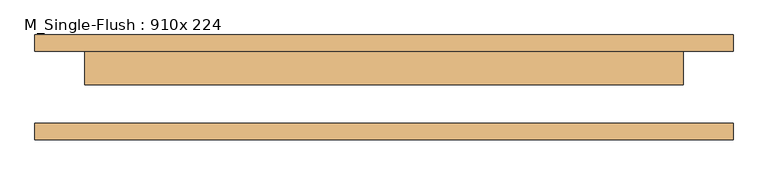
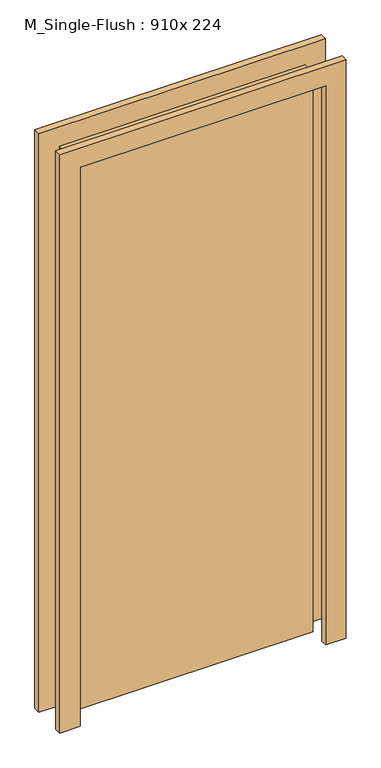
"""IFC4 building model written with IfcOpenShell, lengths in millimetres: door geometry, M_Single-Flush : 910x 224."""

from ifc_helpers import new_model, si_unit, frame, origin, origin_with_axes, place, context, project, spatial, polyline, outline, extrude, source, transform, mapped, element, save


def m_single_flush_910x_224_b1cae8a4(model_context):
    return source(origin(), model_context, "Body", "SweptSolid", [
        extrude(outline(polyline([(2276.0, -533.5), (0.0, -533.5), (0.0, -457.5), (2200.0, -457.5), (2200.0, 457.5), (0.0, 457.5), (0.0, 533.5), (2276.0, 533.5), (2276.0, -533.5)])), frame((0.0, 55.0, 0.0), z_axis=(0.0, 1.0, 0.0), x_axis=(0.0, 0.0, 1.0)), (0.0, 0.0, 1.0), 25.0),
        extrude(outline(polyline([(2276.0, 533.5), (2276.0, -533.5), (0.0, -533.5), (0.0, -457.5), (2200.0, -457.5), (2200.0, 457.5), (0.0, 457.5), (0.0, 533.5), (2276.0, 533.5)])), frame((0.0, -80.0, 0.0), z_axis=(0.0, 1.0, 0.0), x_axis=(0.0, 0.0, 1.0)), (0.0, 0.0, 1.0), 25.0),
        extrude(outline(polyline([(457.5, 4.0), (-457.5, 4.0), (-457.5, 55.0), (457.5, 55.0), (457.5, 4.0)])), origin_with_axes(), (0.0, 0.0, 1.0), 2200.0),
    ])


if __name__ == "__main__":
    model = new_model("IFC4")
    model_context = context("Model", 3, world=origin())
    ifc_project = project(units=[si_unit("LENGTHUNIT", "METRE", prefix="MILLI")], contexts=[model_context])
    site = spatial("IfcSite", under=ifc_project)
    building = spatial("IfcBuilding", under=site)
    placement = place(None, origin())
    m_single_flush_910x_224_shape = m_single_flush_910x_224_b1cae8a4(model_context)
    element("IfcDoor", 1, ObjectType="M_Single-Flush : 910x 224", at=placement, inside=building, context=model_context, shape_type="MappedRepresentation", body=[
        mapped(m_single_flush_910x_224_shape, transform((0.0, 0.0, 0.0), x_axis=(1.0, 0.0, 0.0), y_axis=(0.0, 1.0, 0.0), z_axis=(0.0, 0.0, 1.0))),
    ])
    save(model, "model.ifc")
